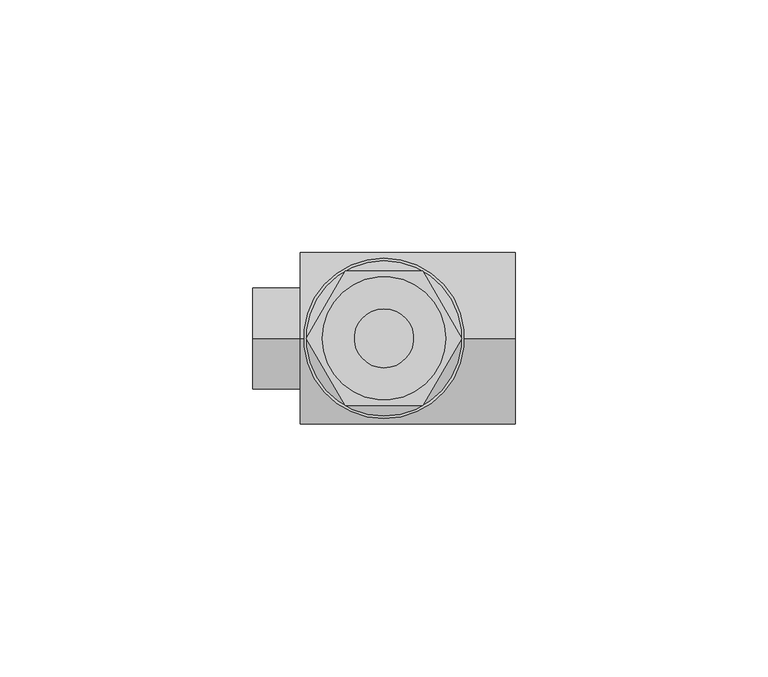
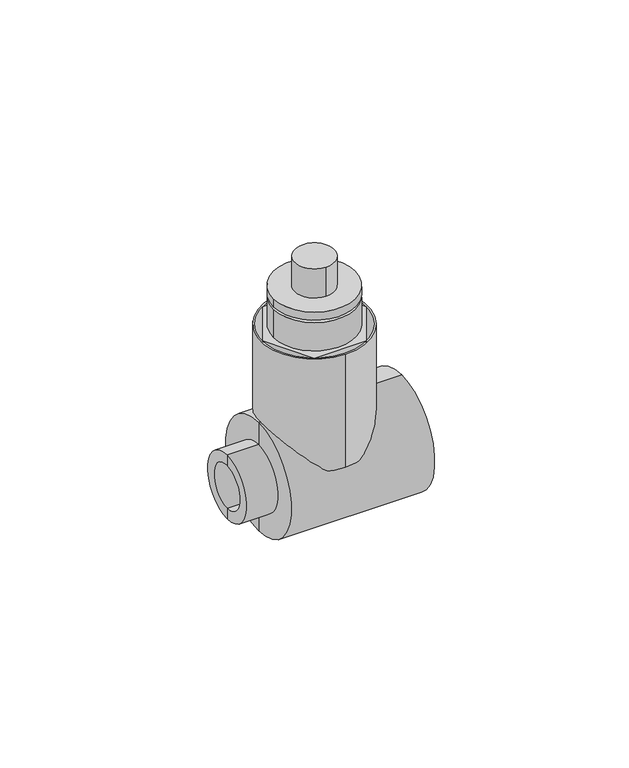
"""IFC4 building model written with IfcOpenShell, lengths in millimetres: valve geometry, Aquatherm - Draining Branch : DRAINING BRANCH."""

from ifc_helpers import new_model, si_unit, point, frame, origin, origin_2d, place, context, project, spatial, polyline, circle_curve, trimmed, segment, composite_curve, outline, extrude, source, transform, mapped, element, save
from ifc_brep_helpers import plane_surface, cylinder_surface, revolved_surface, advanced_brep


def valve_9a9fa175(model_context):
    return source(origin(), model_context, "Body", "SolidModel", [
        extrude(outline(composite_curve([segment(trimmed(circle_curve(origin_2d(), 5.842), [point((0.0, 5.842))], [point((0.0, -5.842))], False, "CARTESIAN"), True, "CONTINUOUS"), segment(trimmed(circle_curve(origin_2d(), 5.842), [point((0.0, -5.842))], [point((0.0, 5.842))], False, "CARTESIAN"), True, "CONTINUOUS")], self_intersect=False)), frame((0.0, 0.0, 54.356), z_axis=(0.0, 0.0, 1.0), x_axis=(1.0, 0.0, 0.0)), (0.0, 0.0, 1.0), 9.144),
        extrude(outline(composite_curve([segment(trimmed(circle_curve(origin_2d(), 12.192), [point((12.192, 0.0))], [point((-12.192, 0.0))], False, "CARTESIAN"), True, "CONTINUOUS"), segment(trimmed(circle_curve(origin_2d(), 12.192), [point((-12.192, 0.0))], [point((12.192, 0.0))], False, "CARTESIAN"), True, "CONTINUOUS")], self_intersect=False)), frame((0.0, 0.0, 51.816), z_axis=(0.0, 0.0, 1.0), x_axis=(1.0, 0.0, 0.0)), (0.0, 0.0, 1.0), 2.54),
        extrude(outline(composite_curve([segment(trimmed(circle_curve(origin_2d(), 6.35), [point((6.35, 0.0))], [point((-6.35, 0.0))], False, "CARTESIAN"), True, "CONTINUOUS"), segment(trimmed(circle_curve(origin_2d(), 6.35), [point((-6.35, 0.0))], [point((6.35, 0.0))], False, "CARTESIAN"), True, "CONTINUOUS")], self_intersect=False)), frame((0.0, 0.0, 51.054), z_axis=(0.0, 0.0, 1.0), x_axis=(1.0, 0.0, 0.0)), (0.0, 0.0, 1.0), 0.762),
        extrude(outline(composite_curve([segment(trimmed(circle_curve(origin_2d(), 12.192), [point((12.192, 0.0))], [point((-12.192, 0.0))], False, "CARTESIAN"), True, "CONTINUOUS"), segment(trimmed(circle_curve(origin_2d(), 12.192), [point((-12.192, 0.0))], [point((12.192, 0.0))], False, "CARTESIAN"), True, "CONTINUOUS")], self_intersect=False)), frame((0.0, 0.0, 42.164), z_axis=(0.0, 0.0, 1.0), x_axis=(1.0, 0.0, 0.0)), (0.0, 0.0, 1.0), 8.89),
        extrude(outline(polyline([(15.367, 0.0), (7.6835, -13.3082124), (-7.6835, -13.3082124), (-15.367, 0.0), (-7.6835, 13.3082124), (7.6835, 13.3082124), (15.367, 0.0)])), frame((0.0, 0.0, 38.862), z_axis=(0.0, 0.0, 1.0), x_axis=(1.0, 0.0, 0.0)), (0.0, 0.0, 1.0), 3.302),
        extrude(outline(composite_curve([segment(trimmed(circle_curve(origin_2d(), 15.875), [point((0.0, 15.875))], [point((0.0, -15.875))], False, "CARTESIAN"), True, "CONTINUOUS"), segment(trimmed(circle_curve(origin_2d(), 15.875), [point((0.0, -15.875))], [point((0.0, 15.875))], False, "CARTESIAN"), True, "CONTINUOUS")], self_intersect=False), holes=[composite_curve([segment(trimmed(circle_curve(origin_2d(), 15.367), [point((0.0, 15.367))], [point((0.0, -15.367))], True, "CARTESIAN"), True, "CONTINUOUS"), segment(trimmed(circle_curve(origin_2d(), 15.367), [point((0.0, -15.367))], [point((0.0, 15.367))], True, "CARTESIAN"), True, "CONTINUOUS")], self_intersect=False)]), frame((0.0, 0.0, 6.731), z_axis=(0.0, 0.0, 1.0), x_axis=(1.0, 0.0, 0.0)), (0.0, 0.0, 1.0), 35.433),
        advanced_brep(
        [(-16.51, 0.0, -17.018), (-16.51, 0.0, 17.018), (25.908, 0.0, 17.018), (25.908, 0.0, -17.018), (-16.51, 0.0, -10.033), (-16.51, 0.0, 10.033), (-25.908, 0.0, -10.033), (-25.908, 0.0, 10.033), (-25.908, 0.0, -6.731), (-25.908, 0.0, 6.731), (11.43, 0.0, -6.731), (11.43, 0.0, 6.731), (11.43, 0.0, -10.033), (11.43, 0.0, 10.033), (25.908, 0.0, -10.033), (25.908, 0.0, 10.033)],
        [
            (0, 1, circle_curve(frame((-16.51, 0.0, 0.0), z_axis=(1.0, 0.0, 0.0), x_axis=(0.0, 0.0, 1.0)), 17.018)),
            (1, 2),
            (2, 3, circle_curve(frame((25.908, 0.0, 0.0), z_axis=(-1.0, 0.0, 0.0), x_axis=(0.0, 0.0, 1.0)), 17.018)),
            (3, 0),
            (1, 0, circle_curve(frame((-16.51, 0.0, 0.0), z_axis=(1.0, 0.0, 0.0), x_axis=(0.0, 0.0, 1.0)), 17.018)),
            (3, 2, circle_curve(frame((25.908, 0.0, 0.0), z_axis=(-1.0, 0.0, 0.0), x_axis=(0.0, 0.0, 1.0)), 17.018)),
            (4, 5, circle_curve(frame((-16.51, 0.0, 0.0), z_axis=(1.0, 0.0, 0.0), x_axis=(0.0, 0.0, 1.0)), 10.033)),
            (5, 1),
            (0, 4),
            (5, 4, circle_curve(frame((-16.51, 0.0, 0.0), z_axis=(1.0, 0.0, 0.0), x_axis=(0.0, 0.0, 1.0)), 10.033)),
            (6, 7, circle_curve(frame((-25.908, 0.0, 0.0), z_axis=(1.0, 0.0, 0.0), x_axis=(0.0, 0.0, 1.0)), 10.033)),
            (7, 5),
            (4, 6),
            (7, 6, circle_curve(frame((-25.908, 0.0, 0.0), z_axis=(1.0, 0.0, 0.0), x_axis=(0.0, 0.0, 1.0)), 10.033)),
            (8, 9, circle_curve(frame((-25.908, 0.0, 0.0), z_axis=(1.0, 0.0, 0.0), x_axis=(0.0, 0.0, 1.0)), 6.731)),
            (9, 7),
            (6, 8),
            (9, 8, circle_curve(frame((-25.908, 0.0, 0.0), z_axis=(1.0, 0.0, 0.0), x_axis=(0.0, 0.0, 1.0)), 6.731)),
            (10, 11, circle_curve(frame((11.43, 0.0, 0.0), z_axis=(1.0, 0.0, 0.0), x_axis=(0.0, 0.0, 1.0)), 6.731)),
            (11, 9),
            (8, 10),
            (11, 10, circle_curve(frame((11.43, 0.0, 0.0), z_axis=(1.0, 0.0, 0.0), x_axis=(0.0, 0.0, 1.0)), 6.731)),
            (12, 13, circle_curve(frame((11.43, 0.0, 0.0), z_axis=(1.0, 0.0, 0.0), x_axis=(0.0, 0.0, 1.0)), 10.033)),
            (13, 11),
            (10, 12),
            (13, 12, circle_curve(frame((11.43, 0.0, 0.0), z_axis=(1.0, 0.0, 0.0), x_axis=(0.0, 0.0, 1.0)), 10.033)),
            (14, 15, circle_curve(frame((25.908, 0.0, 0.0), z_axis=(1.0, 0.0, 0.0), x_axis=(0.0, 0.0, 1.0)), 10.033)),
            (15, 13),
            (12, 14),
            (15, 14, circle_curve(frame((25.908, 0.0, 0.0), z_axis=(1.0, 0.0, 0.0), x_axis=(0.0, 0.0, 1.0)), 10.033)),
            (2, 15),
            (14, 3),
        ],
        [
            cylinder_surface(frame((-32.258, 0.0, 0.0), z_axis=(-1.0, 0.0, 0.0), x_axis=(0.0, 0.0, 1.0)), 17.018),
            plane_surface(frame((-16.51, 0.0, 0.0), z_axis=(-1.0, 0.0, 0.0), x_axis=(0.0, 0.0, 1.0))),
            cylinder_surface(frame((-32.258, 0.0, 0.0), z_axis=(-1.0, 0.0, 0.0), x_axis=(0.0, 0.0, 1.0)), 10.033),
            plane_surface(frame((-25.908, 0.0, 0.0), z_axis=(-1.0, 0.0, 0.0), x_axis=(0.0, 0.0, 1.0))),
            revolved_surface(polyline([(-25.908, 0.0, 6.731), (11.43, 0.0, 6.731)]), (-32.258, 0.0, 0.0), (-1.0, 0.0, 0.0)),
            plane_surface(frame((11.43, 0.0, 0.0), z_axis=(1.0, 0.0, 0.0), x_axis=(0.0, 0.0, 1.0))),
            revolved_surface(polyline([(11.43, 0.0, 10.033), (25.908, 0.0, 10.033)]), (-32.258, 0.0, 0.0), (-1.0, 0.0, 0.0)),
            plane_surface(frame((25.908, 0.0, 0.0), z_axis=(1.0, 0.0, 0.0), x_axis=(0.0, 0.0, 1.0))),
        ],
        [
            (0, [[1, 2, 3, 4]]),
            (0, [[5, -4, 6, -2]]),
            (1, [[7, 8, -1, 9]]),
            (1, [[10, -9, -5, -8]]),
            (2, [[11, 12, -7, 13]]),
            (2, [[14, -13, -10, -12]]),
            (3, [[15, 16, -11, 17]]),
            (3, [[18, -17, -14, -16]]),
            (4, [[19, 20, -15, 21]]),
            (4, [[22, -21, -18, -20]]),
            (5, [[23, 24, -19, 25]]),
            (5, [[26, -25, -22, -24]]),
            (6, [[27, 28, -23, 29]]),
            (6, [[30, -29, -26, -28]]),
            (7, [[-3, 31, -27, 32]]),
            (7, [[-6, -32, -30, -31]]),
        ],
    ),
    ])


if __name__ == "__main__":
    model = new_model("IFC4")
    model_context = context("Model", 3, world=origin())
    ifc_project = project(units=[si_unit("LENGTHUNIT", "METRE", prefix="MILLI")], contexts=[model_context])
    site = spatial("IfcSite", under=ifc_project)
    building = spatial("IfcBuilding", under=site)
    placement = place(None, origin())
    valve_shape = valve_9a9fa175(model_context)
    element("IfcValve", 1, ObjectType="Aquatherm - Draining Branch : DRAINING BRANCH", at=placement, inside=building, context=model_context, shape_type="MappedRepresentation", body=[
        mapped(valve_shape, transform((0.0, 0.0, 0.0), x_axis=(1.0, 0.0, 0.0), y_axis=(0.0, 1.0, 0.0), z_axis=(0.0, 0.0, 1.0))),
    ])
    save(model, "model.ifc")
